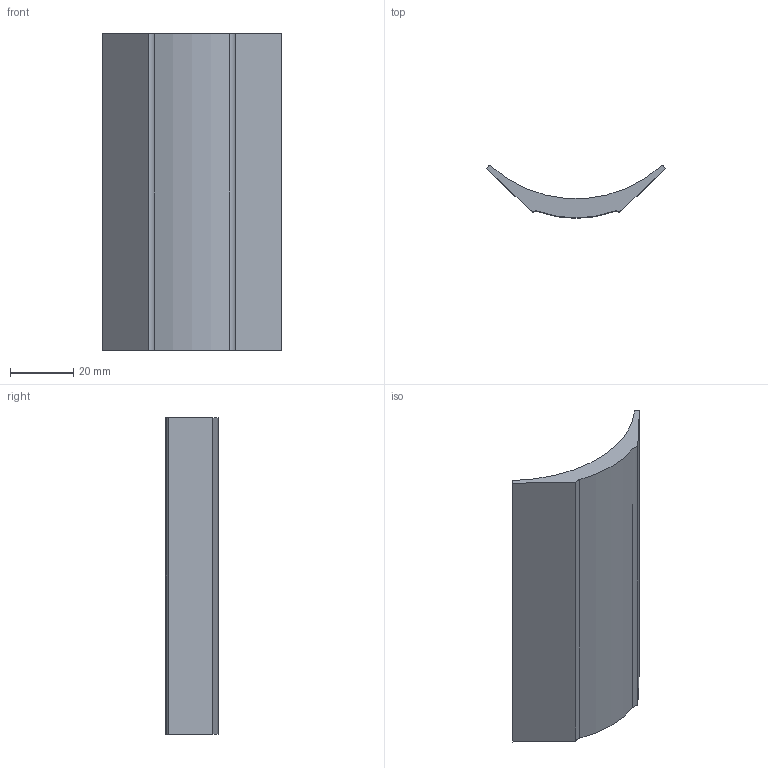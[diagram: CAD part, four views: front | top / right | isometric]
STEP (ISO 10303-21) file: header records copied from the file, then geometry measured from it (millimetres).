
FILE_DESCRIPTION (( 'STEP AP203' ), '1' );
FILE_NAME ('NOMASTYLPURE_NE1_00.step', '2017-10-18T04:55:39', ( '' ), ( '' ), 'SwSTEP 2.0', 'SolidWorks 2017', '' );
FILE_SCHEMA (( 'CONFIG_CONTROL_DESIGN' ));
Length unit declared in the file: millimetre
Products named in the file (1): NOMASTYLPURE_NE1_00
Bounding box: 56.57 x 16.5 x 100 mm (x, y, z)
Volume: 26508.2 mm3; surface area: 13598.3 mm2
Topology: 1 solids, 1 shells, 12 faces, 30 edges, 20 vertices
Faces by surface type: cylinder 6, plane 6
Entity records: 443 total; most frequent: DIRECTION 68, CARTESIAN_POINT 63, ORIENTED_EDGE 60, EDGE_CURVE 30, AXIS2_PLACEMENT_3D 25, VERTEX_POINT 20, LINE 18, VECTOR 18
